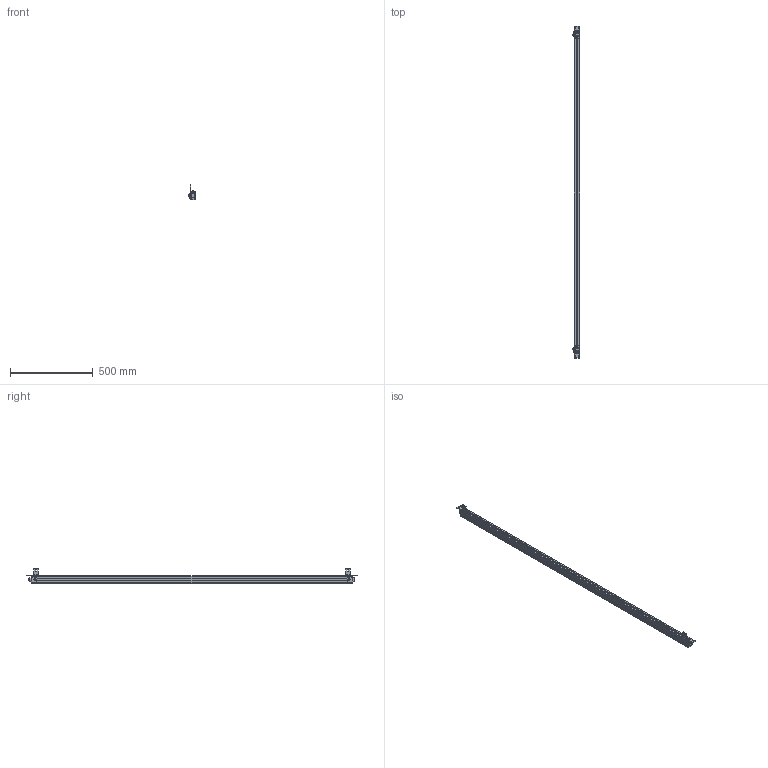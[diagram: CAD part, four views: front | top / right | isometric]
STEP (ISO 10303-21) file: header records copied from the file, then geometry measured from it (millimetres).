
FILE_DESCRIPTION((''),'2;1');
FILE_NAME('ESN--000_ASM','2021-08-11T16:40:26',('18720616900'),(''),'CREO PARAMETRIC BY PTC INC, 2019010','CREO PARAMETRIC BY PTC INC, 2019010','');
FILE_SCHEMA(('CONFIG_CONTROL_DESIGN'));
Length unit declared in the file: millimetre
Products named in the file (22): 00; 000; _0001; 4000; 4--0001; ESN_40001_ASM; L10001; M6-8--0001; M6-1--00; M6-1-00; M6-80001_ASM; L1--0001_ASM; _0002; 0005; ST-3-120001; H1--000; H1--0001_ASM; H1--0003_ASM; ESN--000_ASM
Assembly tree (34 placements, depth 4):
  ESN--000_ASM
    00
    000
    _0001
    000
    ESN_40001_ASM
      4000
      4--0001  x4
    L1--0001_ASM  x2
      L10001
      M6-80001_ASM
        M6-8--0001
        M6-1--00
        M6-1-00
        00
    _0002
    0005
    ST-3-120001  x8
    H1--0001_ASM
      H1--000
      M6-80001_ASM
        M6-8--0001
        M6-1--00
        M6-1-00
        00
    H1--0003_ASM
      H1--000
      M6-80001_ASM
        M6-8--0001
        M6-1--00
        M6-1-00
        00
Bounding box: 46.5 x 2007 x 94.95 mm (x, y, z)
Volume: 2913193.6 mm3; surface area: 577783.2 mm2
Topology: 39 solids, 39 shells, 1727 faces, 4555 edges, 2925 vertices
Faces by surface type: plane 541, cylinder 404, bspline 362, cone 291, torus 105, sphere 24
Entity records: 45714 total; most frequent: CARTESIAN_POINT 24222, ORIENTED_EDGE 4766, DIRECTION 3842, EDGE_CURVE 2383, VERTEX_POINT 1546, AXIS2_PLACEMENT_3D 1400, VECTOR 1042, LINE 1042
